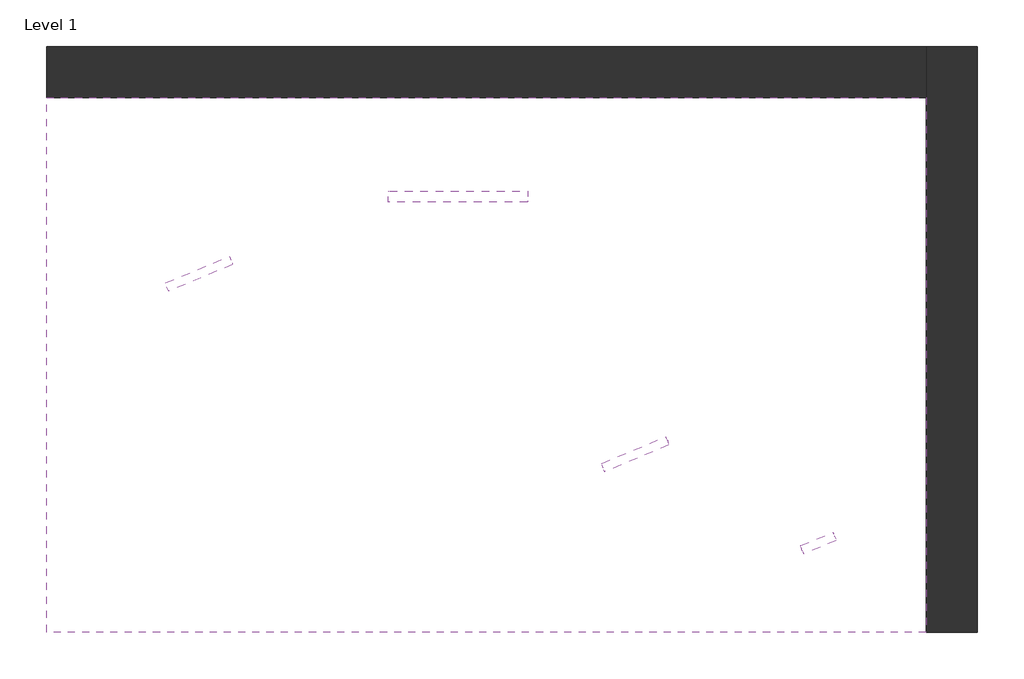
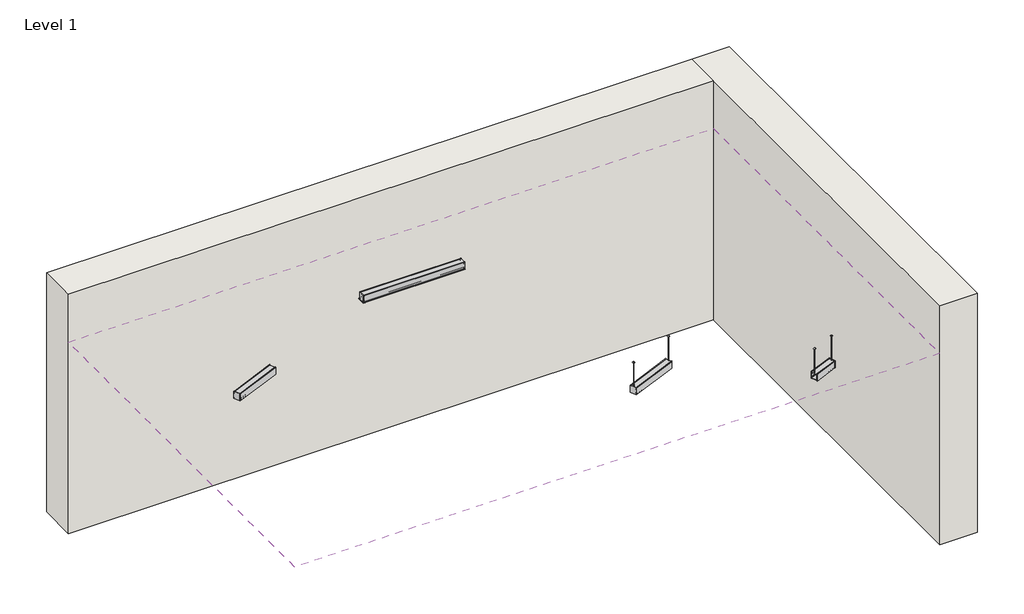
# One storey, incomplete: 4 light fixtures, 2 walls, 1 covering.
"""IFC4 building model written with IfcOpenShell, lengths in millimetres."""

from ifc_helpers import new_model, si_unit, point, frame, frame_2d, origin, origin_with_axes, place, context, project, spatial, polyline, circle_curve, trimmed, segment, composite_curve, outline, extrude, faceted_brep, transform, mapped, element, save
from components import lighting_pendant_axis_sketch_3_linear_6c92bb63, lighting_pendant_axis_sketch_3_linear_22eb64dc, lighting_recessed_axis_sketch_3_linear_7ed75781, lighting_surface_axis_sketch_3_linear_16e01a5c

model = new_model("IFC4")

# Units and contexts
model_context = context("Model", 3, world=origin())
ifc_project = project(units=[si_unit("LENGTHUNIT", "METRE", prefix="MILLI")], contexts=[model_context])

# Site, building, storey
site = spatial("IfcSite", under=ifc_project)
building = spatial("IfcBuilding", under=site)
storey = spatial("IfcBuildingStorey", under=building, Name="Level 1", Elevation=0.0)

# Covering
placement = place(None, origin())
element("IfcCovering", 1, ObjectType="2' x 4' ACT System", at=placement, inside=storey, context=model_context, shape_type="SweptSolid", body=[
    extrude(outline(polyline([(-4065.5199774, 1558.7270347), (-4065.5199774, 6283.1270347), (3706.8800226, 6283.1270347), (3706.8800226, 1558.7270347), (-4065.5199774, 1558.7270347)]), holes=[composite_curve([segment(polyline([(-1037.7201006, 5449.351318), (-1037.7201006, 5369.976318), (185.6327994, 5369.976318)]), True, "CONTINUOUS"), segment(trimmed(circle_curve(frame_2d((185.6327994, 4495.263818)), 874.7125), [point((185.6327994, 5369.976318))], [point((804.1479398, 5113.7789583))], False, "CARTESIAN"), True, "CONTINUOUS"), segment(trimmed(circle_curve(frame_2d((401.1589463, 4710.7899649)), 569.9125), [point((804.1479398, 5113.7789583))], [point((804.1479398, 4307.8009714))], False, "CARTESIAN"), True, "CONTINUOUS"), segment(polyline([(804.1479398, 4307.8009714), (860.2745405, 4251.6743707)]), True, "CONTINUOUS"), segment(trimmed(circle_curve(frame_2d((401.1589463, 4710.7899649)), 649.2875), [point((860.2745405, 4251.6743707))], [point((860.2745405, 5169.905559))], True, "CARTESIAN"), True, "CONTINUOUS"), segment(trimmed(circle_curve(frame_2d((185.6327994, 4495.263818)), 954.0875), [point((860.2745405, 5169.905559))], [point((185.6327994, 5449.351318))], True, "CARTESIAN"), True, "CONTINUOUS"), segment(polyline([(185.6327994, 5449.351318), (-1037.7201006, 5449.351318)]), True, "CONTINUOUS")], self_intersect=False)]), frame((0.0, 0.0, 2438.4), z_axis=(0.0, 0.0, 1.0), x_axis=(1.0, 0.0, 0.0)), (0.0, 0.0, 1.0), 57.15),
])

# Light fixtures
lighting_pendant_axis_sketch_3_linear_shape = lighting_pendant_axis_sketch_3_linear_6c92bb63(model_context)
element("IfcLightFixture", 2, ObjectType="Lighting-Pendant-Axis-Sketch_3-Linear : SK3PD-L-4-1300-80-35-SO", at=placement, inside=storey, context=model_context, shape_type="MappedRepresentation", body=[
    mapped(lighting_pendant_axis_sketch_3_linear_shape, transform((1137.2763438, 3132.1665084, 2438.4), x_axis=(0.923879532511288, 0.382683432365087, 0.0), y_axis=(0.382683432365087, -0.923879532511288, 0.0), z_axis=(0.0, 0.0, -1.0))),
])
lighting_pendant_axis_sketch_3_linear_2_shape = lighting_pendant_axis_sketch_3_linear_22eb64dc(model_context)
element("IfcLightFixture", 3, ObjectType="Lighting-Pendant-Axis-Sketch_3-Linear : SK3PD-L-4-1300-80-35-SO", at=placement, inside=storey, context=model_context, shape_type="MappedRepresentation", body=[
    mapped(lighting_pendant_axis_sketch_3_linear_2_shape, transform((2754.3952411, 2345.692019, 2438.4), x_axis=(0.923879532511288, 0.382683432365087, 0.0), y_axis=(0.382683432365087, -0.923879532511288, 0.0), z_axis=(0.0, 0.0, -1.0))),
])
lighting_recessed_axis_sketch_3_linear_shape = lighting_recessed_axis_sketch_3_linear_7ed75781(model_context)
element("IfcLightFixture", 4, ObjectType="Lighting-Recessed-Axis-Sketch_3-Linear : SK3R-L-4-1300-80-35-SO", at=placement, inside=storey, context=model_context, shape_type="MappedRepresentation", body=[
    mapped(lighting_recessed_axis_sketch_3_linear_shape, transform((-423.9672006, 5409.663818, 2438.4), x_axis=(1.0, 0.0, 0.0), y_axis=(0.0, -1.0, 0.0), z_axis=(0.0, 0.0, -1.0))),
])
lighting_surface_axis_sketch_3_linear_shape = lighting_surface_axis_sketch_3_linear_16e01a5c(model_context)
element("IfcLightFixture", 5, ObjectType="Lighting-Surface-Axis-Sketch_3-Linear : SK3S-L-4-1300-80-35-SO", at=placement, inside=storey, context=model_context, shape_type="MappedRepresentation", body=[
    mapped(lighting_surface_axis_sketch_3_linear_shape, transform((-2715.8193228, 4728.1709907, 2438.4), x_axis=(0.9238795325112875, 0.3826834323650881, 0.0), y_axis=(0.3826834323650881, -0.9238795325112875, 0.0), z_axis=(0.0, 0.0, -1.0))),
])

# Walls
element("IfcWall", 6, ObjectType="Exterior - CMU on Mtl. Stud", at=placement, inside=storey, context=model_context, shape_type="Brep", body=[
    faceted_brep([(4160.9050226, 1558.7270347, 0.0), (4160.9050226, 6737.1520347, 0.0), (4160.9050226, 6737.1520347, 3048.0), (4160.9050226, 1558.7270347, 3048.0), (3706.8800226, 1558.7270347, 0.0), (3706.8800226, 1558.7270347, 3048.0), (3706.8800226, 6283.1270347, 3048.0), (3706.8800226, 6737.1520347, 3048.0), (3706.8800226, 6737.1520347, 0.0), (3706.8800226, 6283.1270347, 0.0)], [[[0, 1, 2, 3]], [[4, 5, 6, 7, 8, 9]], [[1, 0, 4, 9, 8]], [[3, 2, 7, 6, 5]], [[0, 3, 5, 4]], [[2, 1, 8, 7]]]),
])
element("IfcWall", 7, ObjectType="Exterior - CMU on Mtl. Stud", at=placement, inside=storey, context=model_context, shape_type="SweptSolid", body=[
    extrude(outline(polyline([(-4065.5199774, 6737.1520347), (3706.8800226, 6737.1520347), (3706.8800226, 6283.1270347), (-4065.5199774, 6283.1270347), (-4065.5199774, 6737.1520347)])), origin_with_axes(), (0.0, 0.0, 1.0), 3048.0),
])

save(model, "model.ifc")
